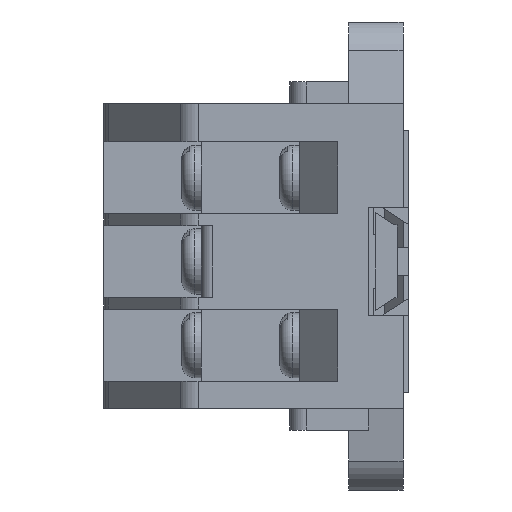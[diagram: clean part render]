
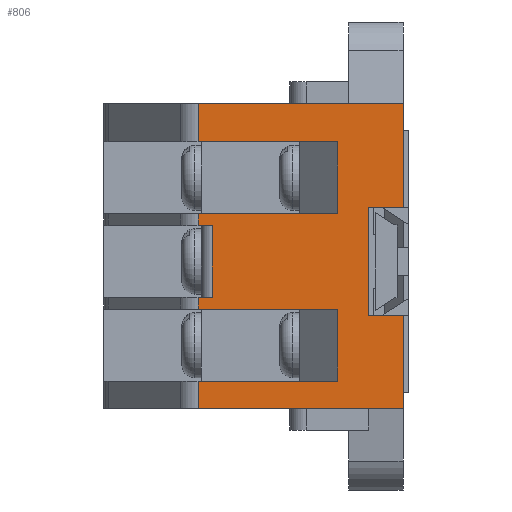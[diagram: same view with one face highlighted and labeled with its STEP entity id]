
A CAD part, left-side view. The second image highlights one B-rep face of the part: STEP entity #806.
In plain terms, the highlighted planar face has unit normal (-1, 0, 0).
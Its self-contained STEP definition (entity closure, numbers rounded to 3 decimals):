
#806=ADVANCED_FACE('',(#4384),#4386,.T.);
#4384=FACE_BOUND('',#4385,.T.);
#4385=EDGE_LOOP('',(#7250,#7251,#7252,#7253,#7254,#7255,#7256,#7257,#7258,#7259,
#7260,#7261,#7262,#7263,#7264,#7265,#7266,#7267,#7268,#7269));
#4386=PLANE('',#4387);
#4387=AXIS2_PLACEMENT_3D('',#4388,#4389,#4390);
#4388=CARTESIAN_POINT('',(-35.85,18.835,0.));
#4389=DIRECTION('',(-1.,0.,0.));
#4390=DIRECTION('',(0.,-1.,0.));
#7250=ORIENTED_EDGE('',*,*,#9395,.T.);
#7251=ORIENTED_EDGE('',*,*,#9396,.T.);
#7252=ORIENTED_EDGE('',*,*,#9397,.F.);
#7253=ORIENTED_EDGE('',*,*,#9398,.T.);
#7254=ORIENTED_EDGE('',*,*,#9399,.T.);
#7255=ORIENTED_EDGE('',*,*,#9400,.T.);
#7256=ORIENTED_EDGE('',*,*,#9401,.F.);
#7257=ORIENTED_EDGE('',*,*,#9402,.T.);
#7258=ORIENTED_EDGE('',*,*,#9403,.T.);
#7259=ORIENTED_EDGE('',*,*,#9404,.T.);
#7260=ORIENTED_EDGE('',*,*,#9405,.F.);
#7261=ORIENTED_EDGE('',*,*,#9406,.T.);
#7262=ORIENTED_EDGE('',*,*,#9407,.T.);
#7263=ORIENTED_EDGE('',*,*,#9408,.T.);
#7264=ORIENTED_EDGE('',*,*,#9409,.T.);
#7265=ORIENTED_EDGE('',*,*,#9410,.T.);
#7266=ORIENTED_EDGE('',*,*,#9328,.T.);
#7267=ORIENTED_EDGE('',*,*,#9368,.F.);
#7268=ORIENTED_EDGE('',*,*,#9411,.F.);
#7269=ORIENTED_EDGE('',*,*,#9412,.T.);
#9328=EDGE_CURVE('',#10459,#10457,#10460,.T.);
#9368=EDGE_CURVE('',#10535,#10457,#10537,.T.);
#9395=EDGE_CURVE('',#10576,#10577,#10578,.T.);
#9396=EDGE_CURVE('',#10577,#10579,#10580,.F.);
#9397=EDGE_CURVE('',#10581,#10579,#10582,.T.);
#9398=EDGE_CURVE('',#10581,#10583,#10584,.F.);
#9399=EDGE_CURVE('',#10583,#10585,#10586,.T.);
#9400=EDGE_CURVE('',#10585,#10587,#10588,.F.);
#9401=EDGE_CURVE('',#10589,#10587,#10590,.T.);
#9402=EDGE_CURVE('',#10589,#10591,#10592,.F.);
#9403=EDGE_CURVE('',#10591,#10593,#10594,.T.);
#9404=EDGE_CURVE('',#10593,#10595,#10596,.F.);
#9405=EDGE_CURVE('',#10597,#10595,#10598,.T.);
#9406=EDGE_CURVE('',#10597,#10599,#10600,.T.);
#9407=EDGE_CURVE('',#10599,#10601,#10602,.T.);
#9408=EDGE_CURVE('',#10601,#10603,#10604,.F.);
#9409=EDGE_CURVE('',#10603,#10605,#10606,.F.);
#9410=EDGE_CURVE('',#10605,#10459,#10607,.F.);
#9411=EDGE_CURVE('',#10608,#10535,#10609,.T.);
#9412=EDGE_CURVE('',#10608,#10576,#10610,.F.);
#10457=VERTEX_POINT('',#12366);
#10459=VERTEX_POINT('',#12370);
#10460=LINE('',#12371,#12372);
#10535=VERTEX_POINT('',#12534);
#10537=LINE('',#12539,#12540);
#10576=VERTEX_POINT('',#12634);
#10577=VERTEX_POINT('',#12635);
#10578=LINE('',#12636,#12637);
#10579=VERTEX_POINT('',#12639);
#10580=LINE('',#12640,#12641);
#10581=VERTEX_POINT('',#12643);
#10582=LINE('',#12644,#12645);
#10583=VERTEX_POINT('',#12647);
#10584=LINE('',#12648,#12649);
#10585=VERTEX_POINT('',#12651);
#10586=LINE('',#12652,#12653);
#10587=VERTEX_POINT('',#12655);
#10588=LINE('',#12656,#12657);
#10589=VERTEX_POINT('',#12659);
#10590=LINE('',#12660,#12661);
#10591=VERTEX_POINT('',#12663);
#10592=LINE('',#12664,#12665);
#10593=VERTEX_POINT('',#12667);
#10594=LINE('',#12668,#12669);
#10595=VERTEX_POINT('',#12671);
#10596=LINE('',#12672,#12673);
#10597=VERTEX_POINT('',#12675);
#10598=LINE('',#12676,#12677);
#10599=VERTEX_POINT('',#12679);
#10600=LINE('',#12680,#12681);
#10601=VERTEX_POINT('',#12683);
#10602=LINE('',#12684,#12685);
#10603=VERTEX_POINT('',#12687);
#10604=LINE('',#12688,#12689);
#10605=VERTEX_POINT('',#12691);
#10606=LINE('',#12692,#12693);
#10607=LINE('',#12695,#12696);
#10608=VERTEX_POINT('',#12698);
#10609=LINE('',#12699,#12700);
#10610=LINE('',#12702,#12703);
#12366=CARTESIAN_POINT('',(-35.85,0.,28.));
#12370=CARTESIAN_POINT('',(-35.85,0.,18.5));
#12371=CARTESIAN_POINT('',(-35.85,0.,18.5));
#12372=VECTOR('',#12373,1.);
#12373=DIRECTION('',(0.,0.,1.));
#12534=CARTESIAN_POINT('',(-35.85,18.835,28.));
#12539=CARTESIAN_POINT('',(-35.85,18.835,28.));
#12540=VECTOR('',#12541,1.);
#12541=DIRECTION('',(0.,-1.,0.));
#12634=CARTESIAN_POINT('',(-35.85,6.019,24.5));
#12635=CARTESIAN_POINT('',(-35.85,6.019,17.9));
#12636=CARTESIAN_POINT('',(-35.85,6.019,24.5));
#12637=VECTOR('',#12638,1.);
#12638=DIRECTION('',(0.,0.,-1.));
#12639=CARTESIAN_POINT('',(-35.85,18.835,17.9));
#12640=CARTESIAN_POINT('',(-35.85,18.835,17.9));
#12641=VECTOR('',#12642,1.);
#12642=DIRECTION('',(0.,-1.,0.));
#12643=CARTESIAN_POINT('',(-35.85,18.835,16.8));
#12644=CARTESIAN_POINT('',(-35.85,18.835,16.8));
#12645=VECTOR('',#12646,1.);
#12646=DIRECTION('',(0.,0.,1.));
#12647=CARTESIAN_POINT('',(-35.85,17.519,16.8));
#12648=CARTESIAN_POINT('',(-35.85,17.519,16.8));
#12649=VECTOR('',#12650,1.);
#12650=DIRECTION('',(0.,1.,0.));
#12651=CARTESIAN_POINT('',(-35.85,17.519,10.2));
#12652=CARTESIAN_POINT('',(-35.85,17.519,16.8));
#12653=VECTOR('',#12654,1.);
#12654=DIRECTION('',(0.,0.,-1.));
#12655=CARTESIAN_POINT('',(-35.85,18.835,10.2));
#12656=CARTESIAN_POINT('',(-35.85,18.835,10.2));
#12657=VECTOR('',#12658,1.);
#12658=DIRECTION('',(0.,-1.,0.));
#12659=CARTESIAN_POINT('',(-35.85,18.835,9.1));
#12660=CARTESIAN_POINT('',(-35.85,18.835,9.1));
#12661=VECTOR('',#12662,1.);
#12662=DIRECTION('',(0.,0.,1.));
#12663=CARTESIAN_POINT('',(-35.85,6.019,9.1));
#12664=CARTESIAN_POINT('',(-35.85,6.019,9.1));
#12665=VECTOR('',#12666,1.);
#12666=DIRECTION('',(0.,1.,0.));
#12667=CARTESIAN_POINT('',(-35.85,6.019,2.5));
#12668=CARTESIAN_POINT('',(-35.85,6.019,9.1));
#12669=VECTOR('',#12670,1.);
#12670=DIRECTION('',(0.,0.,-1.));
#12671=CARTESIAN_POINT('',(-35.85,18.835,2.5));
#12672=CARTESIAN_POINT('',(-35.85,18.835,2.5));
#12673=VECTOR('',#12674,1.);
#12674=DIRECTION('',(0.,-1.,0.));
#12675=CARTESIAN_POINT('',(-35.85,18.835,0.));
#12676=CARTESIAN_POINT('',(-35.85,18.835,0.));
#12677=VECTOR('',#12678,1.);
#12678=DIRECTION('',(0.,0.,1.));
#12679=CARTESIAN_POINT('',(-35.85,0.,0.));
#12680=CARTESIAN_POINT('',(-35.85,18.835,0.));
#12681=VECTOR('',#12682,1.);
#12682=DIRECTION('',(0.,-1.,0.));
#12683=CARTESIAN_POINT('',(-35.85,0.,8.5));
#12684=CARTESIAN_POINT('',(-35.85,0.,0.));
#12685=VECTOR('',#12686,1.);
#12686=DIRECTION('',(0.,0.,1.));
#12687=CARTESIAN_POINT('',(-35.85,3.2,8.5));
#12688=CARTESIAN_POINT('',(-35.85,3.2,8.5));
#12689=VECTOR('',#12690,1.);
#12690=DIRECTION('',(0.,-1.,0.));
#12691=CARTESIAN_POINT('',(-35.85,3.2,18.5));
#12692=CARTESIAN_POINT('',(-35.85,3.2,18.5));
#12693=VECTOR('',#12694,1.);
#12694=DIRECTION('',(0.,0.,-1.));
#12695=CARTESIAN_POINT('',(-35.85,0.,18.5));
#12696=VECTOR('',#12697,1.);
#12697=DIRECTION('',(0.,1.,0.));
#12698=CARTESIAN_POINT('',(-35.85,18.835,24.5));
#12699=CARTESIAN_POINT('',(-35.85,18.835,24.5));
#12700=VECTOR('',#12701,1.);
#12701=DIRECTION('',(0.,0.,1.));
#12702=CARTESIAN_POINT('',(-35.85,6.019,24.5));
#12703=VECTOR('',#12704,1.);
#12704=DIRECTION('',(0.,1.,0.));
